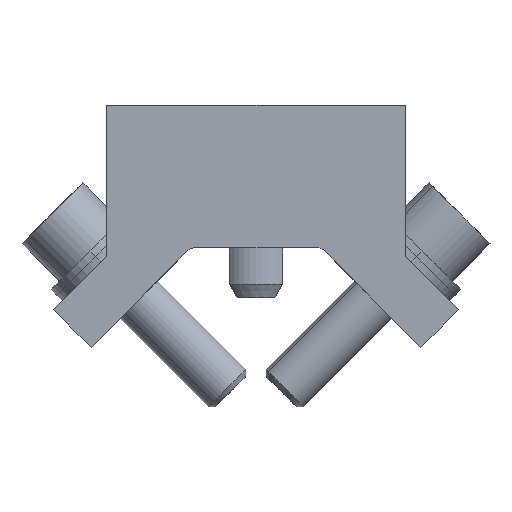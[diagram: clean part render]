
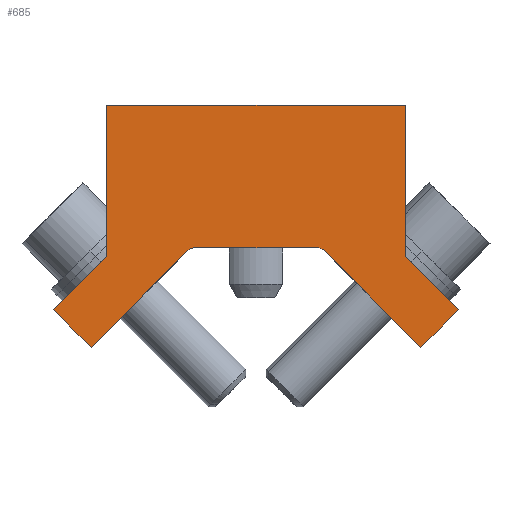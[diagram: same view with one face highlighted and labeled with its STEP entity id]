
A CAD part, left-side view. The second image highlights one B-rep face of the part: STEP entity #685.
In plain terms, the highlighted planar face has unit normal (-1, 0, 0).
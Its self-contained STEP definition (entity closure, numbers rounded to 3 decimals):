
#685=ADVANCED_FACE('Solid.25',(#1570),#1571,.F.);
#1570=FACE_OUTER_BOUND('',#2781,.T.);
#1571=PLANE('',#2782);
#2781=EDGE_LOOP('',(#4360,#4361,#4362,#4363,#4364,#4365,#4366,#4367,#4368,#4369,#4370,#4371));
#2782=AXIS2_PLACEMENT_3D('',#4372,#4373,#4374);
#4360=ORIENTED_EDGE('',*,*,#7009,.T.);
#4361=ORIENTED_EDGE('',*,*,#6974,.F.);
#4362=ORIENTED_EDGE('',*,*,#7007,.T.);
#4363=ORIENTED_EDGE('',*,*,#7010,.F.);
#4364=ORIENTED_EDGE('',*,*,#7011,.F.);
#4365=ORIENTED_EDGE('',*,*,#7012,.F.);
#4366=ORIENTED_EDGE('',*,*,#7013,.T.);
#4367=ORIENTED_EDGE('',*,*,#7014,.T.);
#4368=ORIENTED_EDGE('',*,*,#7015,.F.);
#4369=ORIENTED_EDGE('',*,*,#7016,.F.);
#4370=ORIENTED_EDGE('',*,*,#7017,.F.);
#4371=ORIENTED_EDGE('',*,*,#7018,.F.);
#4372=CARTESIAN_POINT('',(-48.5,0.0,0.0));
#4373=DIRECTION('',(1.0,0.0,0.0));
#4374=DIRECTION('',(0.0,1.0,0.0));
#6974=EDGE_CURVE('',#8307,#8309,#8310,.T.);
#7007=EDGE_CURVE('',#8307,#8357,#8359,.T.);
#7009=EDGE_CURVE('',#8361,#8309,#8362,.T.);
#7010=EDGE_CURVE('',#8363,#8357,#8364,.T.);
#7011=EDGE_CURVE('',#8365,#8363,#8366,.T.);
#7012=EDGE_CURVE('',#8367,#8365,#8368,.T.);
#7013=EDGE_CURVE('',#8367,#8369,#8370,.T.);
#7014=EDGE_CURVE('',#8369,#8371,#8372,.T.);
#7015=EDGE_CURVE('',#8373,#8371,#8374,.T.);
#7016=EDGE_CURVE('',#8375,#8373,#8376,.T.);
#7017=EDGE_CURVE('',#8377,#8375,#8378,.T.);
#7018=EDGE_CURVE('',#8361,#8377,#8379,.T.);
#8307=VERTEX_POINT('',#10047);
#8309=VERTEX_POINT('',#10050);
#8310=LINE('',#10051,#10052);
#8357=VERTEX_POINT('',#10111);
#8359=B_SPLINE_CURVE_WITH_KNOTS('',4,(#10114,#10115,#10116,#10117,#10118),.UNSPECIFIED.,.F.,.F.,(5,5),(2.356,3.534),.UNSPECIFIED.);
#8361=VERTEX_POINT('',#10120);
#8362=B_SPLINE_CURVE_WITH_KNOTS('',4,(#10121,#10122,#10123,#10124,#10125),.UNSPECIFIED.,.F.,.F.,(5,5),(1.178,2.356),.UNSPECIFIED.);
#8363=VERTEX_POINT('',#10126);
#8364=LINE('',#10127,#10128);
#8365=VERTEX_POINT('',#10129);
#8366=LINE('',#10130,#10131);
#8367=VERTEX_POINT('',#10132);
#8368=LINE('',#10133,#10134);
#8369=VERTEX_POINT('',#10135);
#8370=LINE('',#10136,#10137);
#8371=VERTEX_POINT('',#10138);
#8372=LINE('',#10139,#10140);
#8373=VERTEX_POINT('',#10141);
#8374=LINE('',#10142,#10143);
#8375=VERTEX_POINT('',#10144);
#8376=LINE('',#10145,#10146);
#8377=VERTEX_POINT('',#10147);
#8378=LINE('',#10148,#10149);
#8379=LINE('',#10150,#10151);
#10047=CARTESIAN_POINT('',(-48.5,-9.234,25.5));
#10050=CARTESIAN_POINT('',(-48.5,9.234,25.5));
#10051=CARTESIAN_POINT('',(-48.5,0.,25.5));
#10052=VECTOR('',#12377,1.0);
#10111=CARTESIAN_POINT('',(-48.5,-10.295,25.061));
#10114=CARTESIAN_POINT('',(-48.5,-9.234,25.5));
#10115=CARTESIAN_POINT('',(-48.5,-9.529,25.5));
#10116=CARTESIAN_POINT('',(-48.5,-9.823,25.423));
#10117=CARTESIAN_POINT('',(-48.5,-10.086,25.269));
#10118=CARTESIAN_POINT('',(-48.5,-10.295,25.061));
#10120=CARTESIAN_POINT('',(-48.5,10.295,25.061));
#10121=CARTESIAN_POINT('',(-48.5,10.295,25.061));
#10122=CARTESIAN_POINT('',(-48.5,10.086,25.269));
#10123=CARTESIAN_POINT('',(-48.5,9.823,25.423));
#10124=CARTESIAN_POINT('',(-48.5,9.529,25.5));
#10125=CARTESIAN_POINT('',(-48.5,9.234,25.5));
#10126=CARTESIAN_POINT('',(-48.5,-24.855,10.5));
#10127=CARTESIAN_POINT('',(-48.5,-17.575,17.78));
#10128=VECTOR('',#12433,1.0);
#10129=CARTESIAN_POINT('',(-48.5,-30.512,16.157));
#10130=CARTESIAN_POINT('',(-48.5,-27.684,13.328));
#10131=VECTOR('',#12434,1.0);
#10132=CARTESIAN_POINT('',(-48.5,-22.5,24.169));
#10133=CARTESIAN_POINT('',(-48.5,-26.506,20.163));
#10134=VECTOR('',#12435,1.0);
#10135=CARTESIAN_POINT('',(-48.5,-22.5,47.0));
#10136=CARTESIAN_POINT('',(-48.5,-22.5,35.585));
#10137=VECTOR('',#12436,1.0);
#10138=CARTESIAN_POINT('',(-48.5,22.5,47.0));
#10139=CARTESIAN_POINT('',(-48.5,0.,47.0));
#10140=VECTOR('',#12437,1.0);
#10141=CARTESIAN_POINT('',(-48.5,22.5,24.169));
#10142=CARTESIAN_POINT('',(-48.5,22.5,35.585));
#10143=VECTOR('',#12438,1.0);
#10144=CARTESIAN_POINT('',(-48.5,30.512,16.157));
#10145=CARTESIAN_POINT('',(-48.5,26.506,20.163));
#10146=VECTOR('',#12439,1.0);
#10147=CARTESIAN_POINT('',(-48.5,24.855,10.5));
#10148=CARTESIAN_POINT('',(-48.5,27.684,13.328));
#10149=VECTOR('',#12440,1.0);
#10150=CARTESIAN_POINT('',(-48.5,17.575,17.78));
#10151=VECTOR('',#12441,1.0);
#12377=DIRECTION('',(0.0,1.0,0.0));
#12433=DIRECTION('',(0.0,0.707,0.707));
#12434=DIRECTION('',(0.0,0.707,-0.707));
#12435=DIRECTION('',(0.0,-0.707,-0.707));
#12436=DIRECTION('',(0.0,0.0,1.0));
#12437=DIRECTION('',(0.0,1.0,0.0));
#12438=DIRECTION('',(0.0,0.0,1.0));
#12439=DIRECTION('',(0.0,-0.707,0.707));
#12440=DIRECTION('',(0.0,0.707,0.707));
#12441=DIRECTION('',(0.0,0.707,-0.707));
